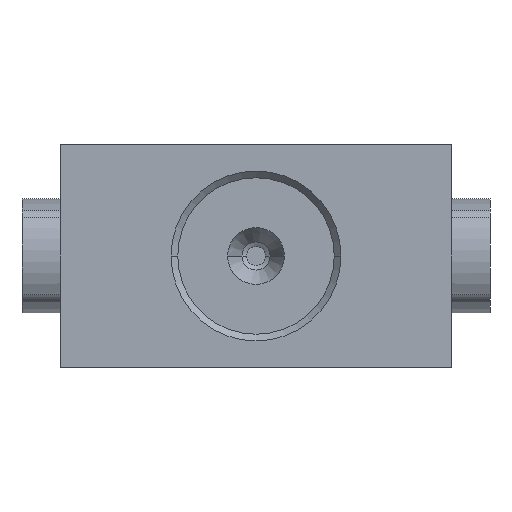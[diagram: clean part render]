
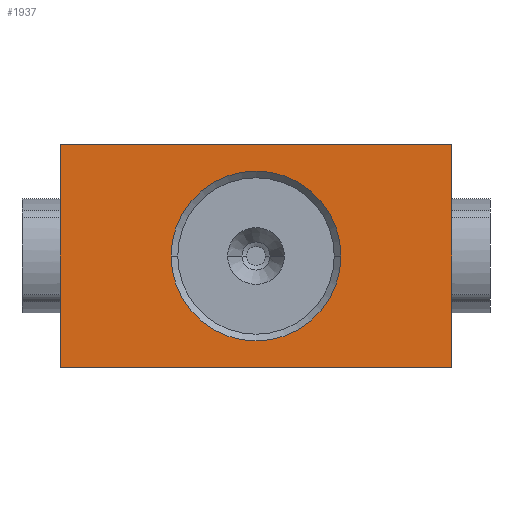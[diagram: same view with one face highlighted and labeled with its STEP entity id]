
A CAD part, front view. The second image highlights one B-rep face of the part: STEP entity #1937.
In plain terms, the highlighted planar face has unit normal (0, -1, 0).
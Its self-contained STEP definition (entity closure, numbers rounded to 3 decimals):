
#118 = LINE ( 'NONE', #1078, #2894 ) ;
#126 = ORIENTED_EDGE ( 'NONE', *, *, #2616, .F. ) ;
#147 = CARTESIAN_POINT ( 'NONE',  ( 14.52, -33.5, 0. ) ) ;
#179 = DIRECTION ( 'NONE',  ( 0., 0., 1. ) ) ;
#185 = CARTESIAN_POINT ( 'NONE',  ( 33.5, -33.5, 19. ) ) ;
#214 = EDGE_CURVE ( 'NONE', #3125, #393, #1092, .T. ) ;
#230 = CARTESIAN_POINT ( 'NONE',  ( 0., -33.5, 0. ) ) ;
#350 = AXIS2_PLACEMENT_3D ( 'NONE', #230, #954, #2908 ) ;
#393 = VERTEX_POINT ( 'NONE', #1016 ) ;
#465 = LINE ( 'NONE', #3187, #2553 ) ;
#508 = EDGE_CURVE ( 'NONE', #2813, #682, #118, .T. ) ;
#637 = EDGE_CURVE ( 'NONE', #3171, #1737, #3002, .T. ) ;
#682 = VERTEX_POINT ( 'NONE', #2638 ) ;
#708 = CARTESIAN_POINT ( 'NONE',  ( -33.5, -33.5, 19. ) ) ;
#851 = VECTOR ( 'NONE', #1108, 1000. ) ;
#855 = CARTESIAN_POINT ( 'NONE',  ( 33.5, -33.5, 19. ) ) ;
#911 = ORIENTED_EDGE ( 'NONE', *, *, #2657, .T. ) ;
#923 = EDGE_LOOP ( 'NONE', ( #2228, #1348 ) ) ;
#929 = CARTESIAN_POINT ( 'NONE',  ( -14.52, -33.5, 0. ) ) ;
#954 = DIRECTION ( 'NONE',  ( 0., 1., 0. ) ) ;
#968 = PLANE ( 'NONE',  #2924 ) ;
#1001 = FACE_OUTER_BOUND ( 'NONE', #2661, .T. ) ;
#1016 = CARTESIAN_POINT ( 'NONE',  ( 33.5, -33.5, -19. ) ) ;
#1078 = CARTESIAN_POINT ( 'NONE',  ( -33.5, -33.5, 19. ) ) ;
#1084 = CIRCLE ( 'NONE', #350, 14.52 ) ;
#1092 = LINE ( 'NONE', #855, #851 ) ;
#1106 = AXIS2_PLACEMENT_3D ( 'NONE', #2417, #1177, #1144 ) ;
#1108 = DIRECTION ( 'NONE',  ( 0., 0., -1. ) ) ;
#1144 = DIRECTION ( 'NONE',  ( 0., 0., 1. ) ) ;
#1177 = DIRECTION ( 'NONE',  ( 0., 1., 0. ) ) ;
#1239 = ORIENTED_EDGE ( 'NONE', *, *, #214, .F. ) ;
#1324 = ORIENTED_EDGE ( 'NONE', *, *, #508, .T. ) ;
#1348 = ORIENTED_EDGE ( 'NONE', *, *, #637, .T. ) ;
#1359 = LINE ( 'NONE', #2109, #1525 ) ;
#1525 = VECTOR ( 'NONE', #2862, 1000. ) ;
#1737 = VERTEX_POINT ( 'NONE', #147 ) ;
#1793 = DIRECTION ( 'NONE',  ( 1., 0., 0. ) ) ;
#1821 = DIRECTION ( 'NONE',  ( 0., 0., -1. ) ) ;
#1937 = ADVANCED_FACE ( 'NONE', ( #2403, #1001 ), #968, .F. ) ;
#2109 = CARTESIAN_POINT ( 'NONE',  ( -33.5, -33.5, -19. ) ) ;
#2163 = DIRECTION ( 'NONE',  ( 0., 1., 0. ) ) ;
#2228 = ORIENTED_EDGE ( 'NONE', *, *, #2539, .T. ) ;
#2403 = FACE_BOUND ( 'NONE', #923, .T. ) ;
#2417 = CARTESIAN_POINT ( 'NONE',  ( 0., -33.5, 0. ) ) ;
#2539 = EDGE_CURVE ( 'NONE', #1737, #3171, #1084, .T. ) ;
#2553 = VECTOR ( 'NONE', #1793, 1000. ) ;
#2616 = EDGE_CURVE ( 'NONE', #2813, #3125, #465, .T. ) ;
#2638 = CARTESIAN_POINT ( 'NONE',  ( -33.5, -33.5, -19. ) ) ;
#2657 = EDGE_CURVE ( 'NONE', #682, #393, #1359, .T. ) ;
#2661 = EDGE_LOOP ( 'NONE', ( #911, #1239, #126, #1324 ) ) ;
#2813 = VERTEX_POINT ( 'NONE', #708 ) ;
#2862 = DIRECTION ( 'NONE',  ( 1., 0., 0. ) ) ;
#2894 = VECTOR ( 'NONE', #1821, 1000. ) ;
#2908 = DIRECTION ( 'NONE',  ( 0., 0., 1. ) ) ;
#2917 = CARTESIAN_POINT ( 'NONE',  ( -33.5, -33.5, 19. ) ) ;
#2924 = AXIS2_PLACEMENT_3D ( 'NONE', #2917, #2163, #179 ) ;
#3002 = CIRCLE ( 'NONE', #1106, 14.52 ) ;
#3125 = VERTEX_POINT ( 'NONE', #185 ) ;
#3171 = VERTEX_POINT ( 'NONE', #929 ) ;
#3187 = CARTESIAN_POINT ( 'NONE',  ( -33.5, -33.5, 19. ) ) ;
